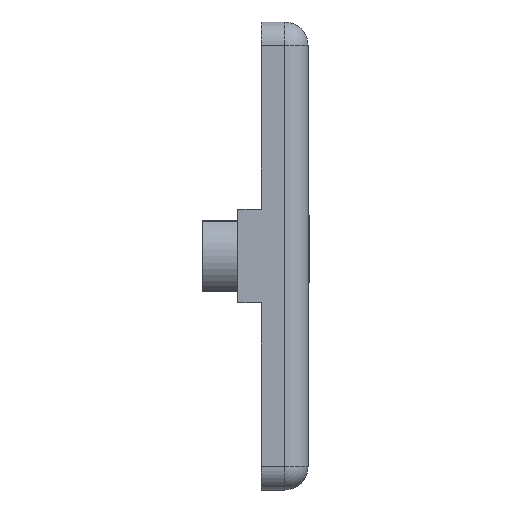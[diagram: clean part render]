
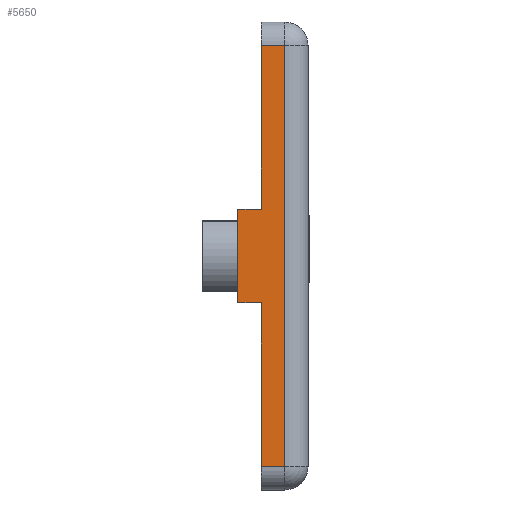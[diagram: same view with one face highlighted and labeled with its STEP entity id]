
A CAD part, left-side view. The second image highlights one B-rep face of the part: STEP entity #5650.
In plain terms, the highlighted planar face has unit normal (-1, 0, 0).
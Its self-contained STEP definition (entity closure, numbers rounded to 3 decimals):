
#138 = CARTESIAN_POINT ( 'NONE',  ( -40., 4., -4. ) ) ;
#180 = VECTOR ( 'NONE', #7578, 1000. ) ;
#378 = LINE ( 'NONE', #6935, #180 ) ;
#393 = EDGE_LOOP ( 'NONE', ( #2253, #7624, #1276, #3083, #7581, #8390, #6996, #7327 ) ) ;
#446 = LINE ( 'NONE', #1803, #3904 ) ;
#495 = EDGE_CURVE ( 'NONE', #7390, #3751, #3812, .T. ) ;
#724 = VERTEX_POINT ( 'NONE', #138 ) ;
#1147 = LINE ( 'NONE', #2832, #2673 ) ;
#1157 = EDGE_CURVE ( 'NONE', #6138, #4551, #7271, .T. ) ;
#1276 = ORIENTED_EDGE ( 'NONE', *, *, #3459, .F. ) ;
#1449 = CARTESIAN_POINT ( 'NONE',  ( -40., 4., -18. ) ) ;
#1664 = VECTOR ( 'NONE', #2998, 1000. ) ;
#1803 = CARTESIAN_POINT ( 'NONE',  ( -40., 6., 4. ) ) ;
#1820 = AXIS2_PLACEMENT_3D ( 'NONE', #4807, #2193, #6771 ) ;
#1860 = CARTESIAN_POINT ( 'NONE',  ( -40., 6., -4. ) ) ;
#2019 = CARTESIAN_POINT ( 'NONE',  ( -40., 4., 4. ) ) ;
#2070 = VECTOR ( 'NONE', #2626, 1000. ) ;
#2077 = CARTESIAN_POINT ( 'NONE',  ( -40., 4., -18. ) ) ;
#2171 = DIRECTION ( 'NONE',  ( 0., 0., 1. ) ) ;
#2193 = DIRECTION ( 'NONE',  ( 1., 0., 0. ) ) ;
#2253 = ORIENTED_EDGE ( 'NONE', *, *, #495, .T. ) ;
#2351 = VECTOR ( 'NONE', #4093, 1000. ) ;
#2626 = DIRECTION ( 'NONE',  ( 0., -1., 0. ) ) ;
#2633 = DIRECTION ( 'NONE',  ( 0., 0., 1. ) ) ;
#2673 = VECTOR ( 'NONE', #2171, 1000. ) ;
#2832 = CARTESIAN_POINT ( 'NONE',  ( -40., 2., -18. ) ) ;
#2998 = DIRECTION ( 'NONE',  ( 0., 0., 1. ) ) ;
#3083 = ORIENTED_EDGE ( 'NONE', *, *, #1157, .F. ) ;
#3410 = LINE ( 'NONE', #8201, #1664 ) ;
#3459 = EDGE_CURVE ( 'NONE', #4551, #5689, #4827, .T. ) ;
#3533 = EDGE_CURVE ( 'NONE', #3751, #5689, #1147, .T. ) ;
#3635 = VERTEX_POINT ( 'NONE', #4241 ) ;
#3751 = VERTEX_POINT ( 'NONE', #4502 ) ;
#3812 = LINE ( 'NONE', #4811, #2070 ) ;
#3904 = VECTOR ( 'NONE', #5612, 1000. ) ;
#3986 = EDGE_CURVE ( 'NONE', #5324, #724, #378, .T. ) ;
#4093 = DIRECTION ( 'NONE',  ( 0., 0., 1. ) ) ;
#4182 = CARTESIAN_POINT ( 'NONE',  ( -40., 2., 18. ) ) ;
#4241 = CARTESIAN_POINT ( 'NONE',  ( -40., 6., 4. ) ) ;
#4323 = LINE ( 'NONE', #2077, #2351 ) ;
#4502 = CARTESIAN_POINT ( 'NONE',  ( -40., 2., -18. ) ) ;
#4551 = VERTEX_POINT ( 'NONE', #5104 ) ;
#4807 = CARTESIAN_POINT ( 'NONE',  ( -40., 4., -18. ) ) ;
#4811 = CARTESIAN_POINT ( 'NONE',  ( -40., 4., -18. ) ) ;
#4827 = LINE ( 'NONE', #6618, #6359 ) ;
#5104 = CARTESIAN_POINT ( 'NONE',  ( -40., 4., 18. ) ) ;
#5324 = VERTEX_POINT ( 'NONE', #1860 ) ;
#5612 = DIRECTION ( 'NONE',  ( 0., -1., 0. ) ) ;
#5650 = ADVANCED_FACE ( 'NONE', ( #6097 ), #6114, .F. ) ;
#5689 = VERTEX_POINT ( 'NONE', #4182 ) ;
#6066 = DIRECTION ( 'NONE',  ( 0., -1., 0. ) ) ;
#6097 = FACE_OUTER_BOUND ( 'NONE', #393, .T. ) ;
#6114 = PLANE ( 'NONE',  #1820 ) ;
#6138 = VERTEX_POINT ( 'NONE', #2019 ) ;
#6359 = VECTOR ( 'NONE', #6066, 1000. ) ;
#6396 = EDGE_CURVE ( 'NONE', #3635, #6138, #446, .T. ) ;
#6618 = CARTESIAN_POINT ( 'NONE',  ( -40., 4., 18. ) ) ;
#6771 = DIRECTION ( 'NONE',  ( 0., 0., -1. ) ) ;
#6807 = EDGE_CURVE ( 'NONE', #5324, #3635, #3410, .T. ) ;
#6935 = CARTESIAN_POINT ( 'NONE',  ( -40., 6., -4. ) ) ;
#6996 = ORIENTED_EDGE ( 'NONE', *, *, #3986, .T. ) ;
#7065 = VECTOR ( 'NONE', #2633, 1000. ) ;
#7077 = CARTESIAN_POINT ( 'NONE',  ( -40., 4., -18. ) ) ;
#7271 = LINE ( 'NONE', #1449, #7065 ) ;
#7327 = ORIENTED_EDGE ( 'NONE', *, *, #8011, .F. ) ;
#7390 = VERTEX_POINT ( 'NONE', #7077 ) ;
#7578 = DIRECTION ( 'NONE',  ( 0., -1., 0. ) ) ;
#7581 = ORIENTED_EDGE ( 'NONE', *, *, #6396, .F. ) ;
#7624 = ORIENTED_EDGE ( 'NONE', *, *, #3533, .T. ) ;
#8011 = EDGE_CURVE ( 'NONE', #7390, #724, #4323, .T. ) ;
#8201 = CARTESIAN_POINT ( 'NONE',  ( -40., 6., -4. ) ) ;
#8390 = ORIENTED_EDGE ( 'NONE', *, *, #6807, .F. ) ;
